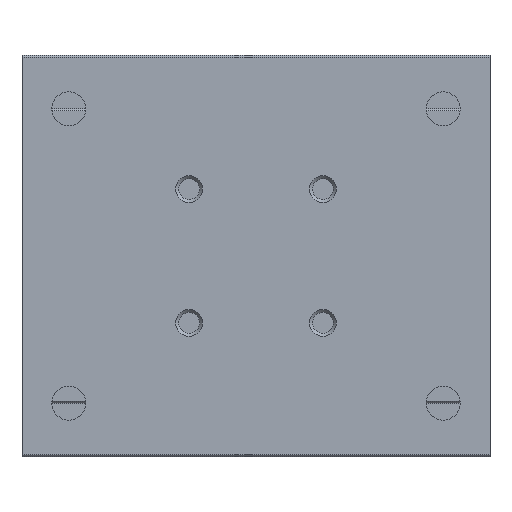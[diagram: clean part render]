
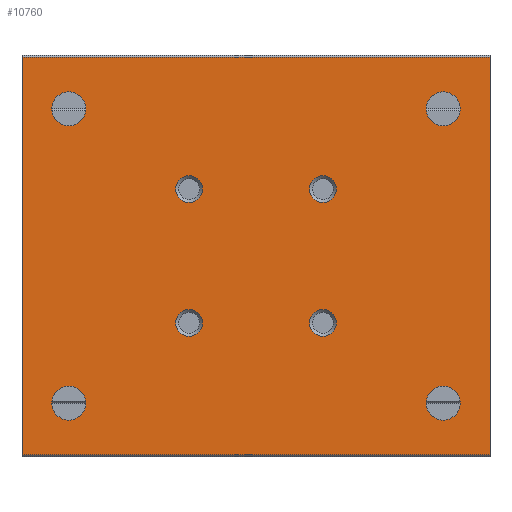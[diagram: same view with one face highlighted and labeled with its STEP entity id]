
A CAD part, front view. The second image highlights one B-rep face of the part: STEP entity #10760.
In plain terms, the highlighted planar face has unit normal (0, -1, 0).
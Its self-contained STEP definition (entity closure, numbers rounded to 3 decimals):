
#354=CIRCLE('',#11400,1.);
#355=CIRCLE('',#11401,1.);
#356=CIRCLE('',#11402,1.);
#357=CIRCLE('',#11403,1.);
#358=CIRCLE('',#11404,1.275);
#359=CIRCLE('',#11405,1.275);
#360=CIRCLE('',#11406,1.275);
#361=CIRCLE('',#11407,1.275);
#1070=ORIENTED_EDGE('',*,*,#4359,.F.);
#1071=ORIENTED_EDGE('',*,*,#4360,.F.);
#1072=ORIENTED_EDGE('',*,*,#4361,.F.);
#1073=ORIENTED_EDGE('',*,*,#4362,.F.);
#1074=ORIENTED_EDGE('',*,*,#4363,.T.);
#1075=ORIENTED_EDGE('',*,*,#4364,.F.);
#1076=ORIENTED_EDGE('',*,*,#4365,.F.);
#1077=ORIENTED_EDGE('',*,*,#4366,.F.);
#1078=ORIENTED_EDGE('',*,*,#4333,.T.);
#1079=ORIENTED_EDGE('',*,*,#4367,.F.);
#1080=ORIENTED_EDGE('',*,*,#4368,.F.);
#1081=ORIENTED_EDGE('',*,*,#4357,.T.);
#4333=EDGE_CURVE('',#5980,#5979,#7087,.T.);
#4357=EDGE_CURVE('',#6002,#5980,#7111,.T.);
#4359=EDGE_CURVE('',#6003,#6003,#354,.T.);
#4360=EDGE_CURVE('',#6004,#6004,#355,.T.);
#4361=EDGE_CURVE('',#6005,#6005,#356,.T.);
#4362=EDGE_CURVE('',#6006,#6006,#357,.T.);
#4363=EDGE_CURVE('',#6007,#6007,#358,.T.);
#4364=EDGE_CURVE('',#6008,#6008,#359,.T.);
#4365=EDGE_CURVE('',#6009,#6009,#360,.T.);
#4366=EDGE_CURVE('',#6010,#6010,#361,.T.);
#4367=EDGE_CURVE('',#6011,#5979,#7113,.T.);
#4368=EDGE_CURVE('',#6002,#6011,#7114,.T.);
#5979=VERTEX_POINT('',#16264);
#5980=VERTEX_POINT('',#16266);
#6002=VERTEX_POINT('',#16315);
#6003=VERTEX_POINT('',#16319);
#6004=VERTEX_POINT('',#16321);
#6005=VERTEX_POINT('',#16323);
#6006=VERTEX_POINT('',#16325);
#6007=VERTEX_POINT('',#16327);
#6008=VERTEX_POINT('',#16329);
#6009=VERTEX_POINT('',#16331);
#6010=VERTEX_POINT('',#16333);
#6011=VERTEX_POINT('',#16335);
#7087=LINE('',#16265,#8101);
#7111=LINE('',#16314,#8125);
#7113=LINE('',#16334,#8127);
#7114=LINE('',#16336,#8128);
#8101=VECTOR('',#12708,1000.);
#8125=VECTOR('',#12738,1000.);
#8127=VECTOR('',#12758,1000.);
#8128=VECTOR('',#12759,1000.);
#9071=EDGE_LOOP('',(#1070));
#9072=EDGE_LOOP('',(#1071));
#9073=EDGE_LOOP('',(#1072));
#9074=EDGE_LOOP('',(#1073));
#9075=EDGE_LOOP('',(#1074));
#9076=EDGE_LOOP('',(#1075));
#9077=EDGE_LOOP('',(#1076));
#9078=EDGE_LOOP('',(#1077));
#9079=EDGE_LOOP('',(#1078,#1079,#1080,#1081));
#9771=FACE_BOUND('',#9071,.T.);
#9772=FACE_BOUND('',#9072,.T.);
#9773=FACE_BOUND('',#9073,.T.);
#9774=FACE_BOUND('',#9074,.T.);
#9775=FACE_BOUND('',#9075,.T.);
#9776=FACE_BOUND('',#9076,.T.);
#9777=FACE_BOUND('',#9077,.T.);
#9778=FACE_BOUND('',#9078,.T.);
#9779=FACE_BOUND('',#9079,.T.);
#10471=PLANE('',#11399);
#10760=ADVANCED_FACE('',(#9771,#9772,#9773,#9774,#9775,#9776,#9777,#9778,
#9779),#10471,.F.);
#11399=AXIS2_PLACEMENT_3D('',#16317,#12740,#12741);
#11400=AXIS2_PLACEMENT_3D('',#16318,#12742,#12743);
#11401=AXIS2_PLACEMENT_3D('',#16320,#12744,#12745);
#11402=AXIS2_PLACEMENT_3D('',#16322,#12746,#12747);
#11403=AXIS2_PLACEMENT_3D('',#16324,#12748,#12749);
#11404=AXIS2_PLACEMENT_3D('',#16326,#12750,#12751);
#11405=AXIS2_PLACEMENT_3D('',#16328,#12752,#12753);
#11406=AXIS2_PLACEMENT_3D('',#16330,#12754,#12755);
#11407=AXIS2_PLACEMENT_3D('',#16332,#12756,#12757);
#12708=DIRECTION('',(0.,0.,-1.));
#12738=DIRECTION('',(-1.,0.,0.));
#12740=DIRECTION('',(0.,1.,0.));
#12741=DIRECTION('',(0.,0.,1.));
#12742=DIRECTION('',(0.,-1.,0.));
#12743=DIRECTION('',(0.,0.,-1.));
#12744=DIRECTION('',(0.,-1.,0.));
#12745=DIRECTION('',(0.,0.,-1.));
#12746=DIRECTION('',(0.,-1.,0.));
#12747=DIRECTION('',(0.,0.,-1.));
#12748=DIRECTION('',(0.,-1.,0.));
#12749=DIRECTION('',(0.,0.,-1.));
#12750=DIRECTION('',(0.,1.,0.));
#12751=DIRECTION('',(0.,0.,1.));
#12752=DIRECTION('',(0.,-1.,0.));
#12753=DIRECTION('',(0.,0.,-1.));
#12754=DIRECTION('',(0.,-1.,0.));
#12755=DIRECTION('',(0.,0.,-1.));
#12756=DIRECTION('',(0.,-1.,0.));
#12757=DIRECTION('',(0.,0.,-1.));
#12758=DIRECTION('',(-1.,0.,0.));
#12759=DIRECTION('',(0.,0.,-1.));
#16264=CARTESIAN_POINT('',(0.,0.,-14.85));
#16265=CARTESIAN_POINT('',(0.,0.,14.85));
#16266=CARTESIAN_POINT('',(0.,0.,14.85));
#16314=CARTESIAN_POINT('',(35.,0.,14.85));
#16315=CARTESIAN_POINT('',(35.,0.,14.85));
#16317=CARTESIAN_POINT('',(35.,0.,14.85));
#16318=CARTESIAN_POINT('',(22.5,0.,-5.));
#16319=CARTESIAN_POINT('',(22.5,0.,-6.));
#16320=CARTESIAN_POINT('',(22.5,0.,5.));
#16321=CARTESIAN_POINT('',(22.5,0.,4.));
#16322=CARTESIAN_POINT('',(12.5,0.,-5.));
#16323=CARTESIAN_POINT('',(12.5,0.,-6.));
#16324=CARTESIAN_POINT('',(12.5,0.,5.));
#16325=CARTESIAN_POINT('',(12.5,0.,4.));
#16326=CARTESIAN_POINT('',(31.5,0.,11.));
#16327=CARTESIAN_POINT('',(31.5,0.,12.275));
#16328=CARTESIAN_POINT('',(31.5,0.,-11.));
#16329=CARTESIAN_POINT('',(31.5,0.,-12.275));
#16330=CARTESIAN_POINT('',(3.5,0.,-11.));
#16331=CARTESIAN_POINT('',(3.5,0.,-12.275));
#16332=CARTESIAN_POINT('',(3.5,0.,11.));
#16333=CARTESIAN_POINT('',(3.5,0.,9.725));
#16334=CARTESIAN_POINT('',(35.,0.,-14.85));
#16335=CARTESIAN_POINT('',(35.,0.,-14.85));
#16336=CARTESIAN_POINT('',(35.,0.,14.85));
